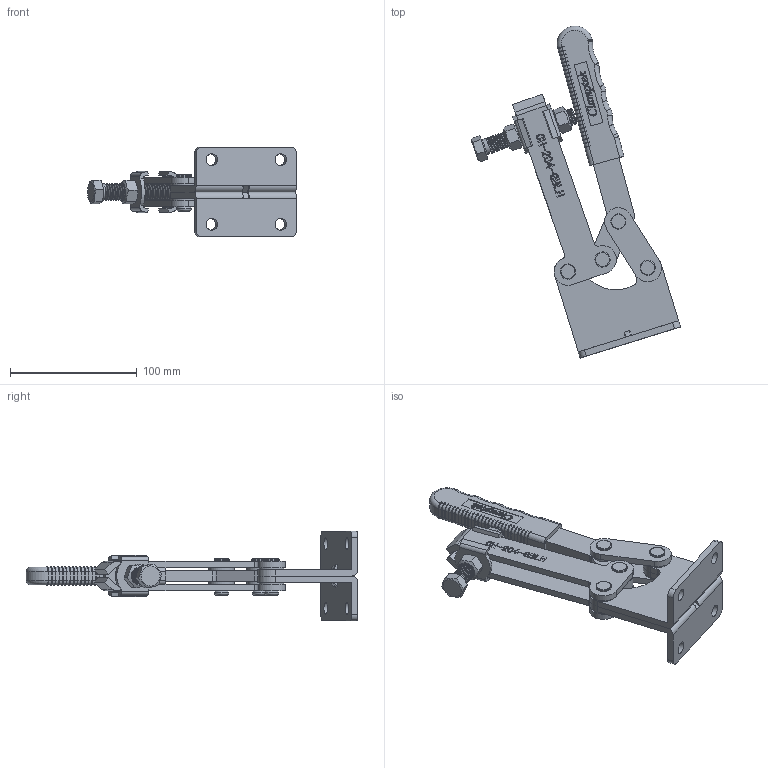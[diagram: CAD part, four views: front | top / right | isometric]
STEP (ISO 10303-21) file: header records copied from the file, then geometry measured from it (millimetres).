
FILE_DESCRIPTION(/* description */ ('STEP AP203'),/* implementation_level */ '2;1');
FILE_NAME(/* name */ 'E:\STRONA\Horizontal toggle clamp\CH-204-GBLH\CH-204-GBLH_OTWARTY.stp',/* time_stamp */ '2019-01-15T15:43:45+01:00',/* author */ ('Admin'),/* organization */ ('Î¢ÈíÖÐ¹ú'),/* preprocessor_version */ 'ST-DEVELOPER v17.2',/* originating_system */ 'Autodesk Inventor 2019',/* authorisation */ '');
FILE_SCHEMA (('AUTOMOTIVE_DESIGN { 1 0 10303 214 3 1 1 }'));
Products named in the file (13): CH-204-GBLH_OTWARTY; 204-GBLH-01___; 204-G-03___; 204-GB-07___; 204-GB-03___; 204-GBLH-02___; 204-GB-08___; 204-GB-06___; CH-FC-12130___; CH-FC-12300-01___; FW120(2)___; 204-GB-05___; 204-GB-04___
Assembly tree (24 placements, depth 3):
  CH-204-GBLH_OTWARTY
    CH-FC-12300-01___  x2
    204-GB-08___  x4
    204-GB-05___  x4
    204-GBLH-01___
    204-GB-06___  x4
    204-GB-04___  x2
    204-G-03___
      204-GB-07___
      204-GB-03___
    FW120(2)___  x2
    204-GBLH-02___
    CH-FC-12130___
Bounding box: 165.04 x 262.17 x 71 mm (x, y, z)
Volume: 206894.8 mm3; surface area: 108131.8 mm2
Topology: 25 solids, 25 shells, 1423 faces, 3784 edges, 2471 vertices
Faces by surface type: plane 572, bspline 444, cylinder 296, torus 93, cone 16, sphere 2
Full cylindrical faces by diameter (mm): 2.8 x1, 4 x1, 9.4 x4, 9.5 x18, 10 x8, 10.2 x2, 10.5 x8, 12 x4, 12.7 x34, 20 x8
Entity records: 78190 total; most frequent: CARTESIAN_POINT 47484, ORIENTED_EDGE 7062, DIRECTION 4911, EDGE_CURVE 3531, VERTEX_POINT 2288, LINE 1953, VECTOR 1953, AXIS2_PLACEMENT_3D 1479
